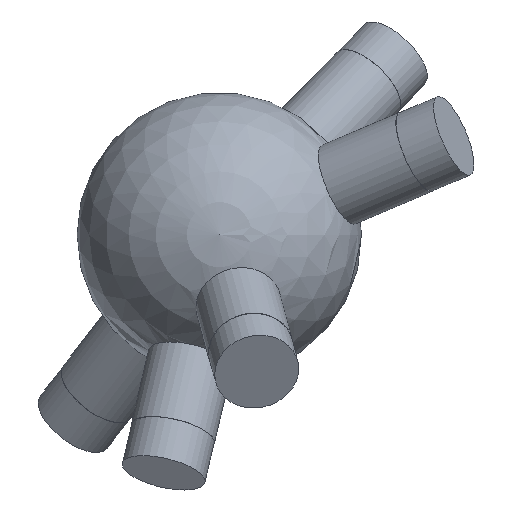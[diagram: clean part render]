
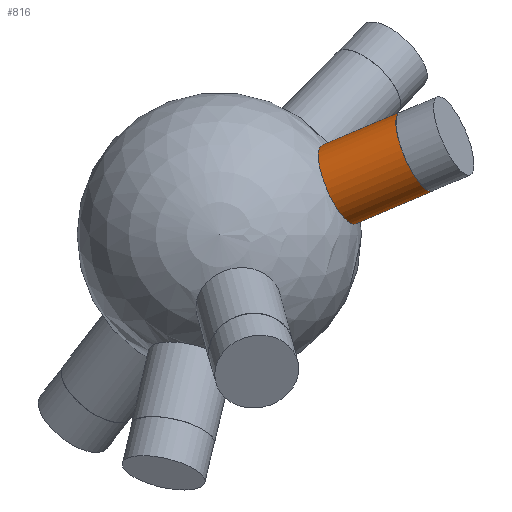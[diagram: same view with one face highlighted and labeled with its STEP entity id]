
A CAD part, top view. The second image highlights one B-rep face of the part: STEP entity #816.
In plain terms, the highlighted cylindrical face has radius 6 mm (diameter 12 mm), a full revolution.
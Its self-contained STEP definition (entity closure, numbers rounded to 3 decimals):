
#33 = SPHERICAL_SURFACE('',#34,20.);
#34 = AXIS2_PLACEMENT_3D('',#35,#36,#37);
#35 = CARTESIAN_POINT('',(0.,0.,0.));
#36 = DIRECTION('',(0.,0.,1.));
#37 = DIRECTION('',(1.,0.,-0.));
#367 = EDGE_CURVE('',#368,#368,#370,.T.);
#368 = VERTEX_POINT('',#369);
#369 = CARTESIAN_POINT('',(14.427,12.604,
    5.746));
#370 = SURFACE_CURVE('',#371,(#376,#431),.PCURVE_S1.);
#371 = CIRCLE('',#372,6.);
#372 = AXIS2_PLACEMENT_3D('',#373,#374,#375);
#373 = CARTESIAN_POINT('',(16.76,7.076,5.746
    ));
#374 = DIRECTION('',(0.878,0.371,0.301));
#375 = DIRECTION('',(-0.389,0.921,0.)
  );
#376 = PCURVE('',#33,#377);
#377 = DEFINITIONAL_REPRESENTATION('',(#378),#430);
#378 = B_SPLINE_CURVE_WITH_KNOTS('',8,(#379,#380,#381,#382,#383,#384,
    #385,#386,#387,#388,#389,#390,#391,#392,#393,#394,#395,#396,#397,
    #398,#399,#400,#401,#402,#403,#404,#405,#406,#407,#408,#409,#410,
    #411,#412,#413,#414,#415,#416,#417,#418,#419,#420,#421,#422,#423,
    #424,#425,#426,#427,#428,#429),.UNSPECIFIED.,.F.,.F.,(9,7,7,7,7,7,7,
    9),(0.,0.785,1.473,2.074,3.126,
    3.915,5.099,6.283),.UNSPECIFIED.);
#379 = CARTESIAN_POINT('',(0.718,0.291));
#380 = CARTESIAN_POINT('',(0.721,0.321));
#381 = CARTESIAN_POINT('',(0.721,0.35));
#382 = CARTESIAN_POINT('',(0.717,0.38));
#383 = CARTESIAN_POINT('',(0.71,0.409));
#384 = CARTESIAN_POINT('',(0.699,0.437));
#385 = CARTESIAN_POINT('',(0.685,0.464));
#386 = CARTESIAN_POINT('',(0.667,0.489));
#387 = CARTESIAN_POINT('',(0.626,0.532));
#388 = CARTESIAN_POINT('',(0.605,0.55));
#389 = CARTESIAN_POINT('',(0.581,0.566));
#390 = CARTESIAN_POINT('',(0.555,0.58));
#391 = CARTESIAN_POINT('',(0.527,0.591));
#392 = CARTESIAN_POINT('',(0.497,0.6));
#393 = CARTESIAN_POINT('',(0.467,0.606));
#394 = CARTESIAN_POINT('',(0.408,0.612));
#395 = CARTESIAN_POINT('',(0.38,0.612));
#396 = CARTESIAN_POINT('',(0.353,0.61));
#397 = CARTESIAN_POINT('',(0.325,0.606));
#398 = CARTESIAN_POINT('',(0.299,0.599));
#399 = CARTESIAN_POINT('',(0.273,0.591));
#400 = CARTESIAN_POINT('',(0.249,0.58));
#401 = CARTESIAN_POINT('',(0.188,0.546));
#402 = CARTESIAN_POINT('',(0.153,0.519));
#403 = CARTESIAN_POINT('',(0.125,0.488));
#404 = CARTESIAN_POINT('',(0.103,0.452));
#405 = CARTESIAN_POINT('',(0.088,0.414));
#406 = CARTESIAN_POINT('',(0.08,0.375));
#407 = CARTESIAN_POINT('',(0.077,0.335));
#408 = CARTESIAN_POINT('',(0.083,0.266));
#409 = CARTESIAN_POINT('',(0.089,0.237));
#410 = CARTESIAN_POINT('',(0.098,0.209));
#411 = CARTESIAN_POINT('',(0.109,0.181));
#412 = CARTESIAN_POINT('',(0.124,0.155));
#413 = CARTESIAN_POINT('',(0.141,0.13));
#414 = CARTESIAN_POINT('',(0.161,0.108));
#415 = CARTESIAN_POINT('',(0.215,0.057));
#416 = CARTESIAN_POINT('',(0.252,0.032));
#417 = CARTESIAN_POINT('',(0.293,0.013));
#418 = CARTESIAN_POINT('',(0.337,0.));
#419 = CARTESIAN_POINT('',(0.382,-0.005));
#420 = CARTESIAN_POINT('',(0.428,-0.003));
#421 = CARTESIAN_POINT('',(0.472,0.006));
#422 = CARTESIAN_POINT('',(0.554,0.038));
#423 = CARTESIAN_POINT('',(0.593,0.061));
#424 = CARTESIAN_POINT('',(0.628,0.09));
#425 = CARTESIAN_POINT('',(0.659,0.124));
#426 = CARTESIAN_POINT('',(0.683,0.162));
#427 = CARTESIAN_POINT('',(0.702,0.204));
#428 = CARTESIAN_POINT('',(0.714,0.247));
#429 = CARTESIAN_POINT('',(0.718,0.291));
#430 = ( GEOMETRIC_REPRESENTATION_CONTEXT(2) 
PARAMETRIC_REPRESENTATION_CONTEXT() REPRESENTATION_CONTEXT('2D SPACE',''
  ) );
#431 = PCURVE('',#432,#437);
#432 = CYLINDRICAL_SURFACE('',#433,6.);
#433 = AXIS2_PLACEMENT_3D('',#434,#435,#436);
#434 = CARTESIAN_POINT('',(0.,0.,0.));
#435 = DIRECTION('',(0.878,0.371,0.301));
#436 = DIRECTION('',(-0.389,0.921,0.)
  );
#437 = DEFINITIONAL_REPRESENTATION('',(#438),#442);
#438 = LINE('',#439,#440);
#439 = CARTESIAN_POINT('',(0.,19.079));
#440 = VECTOR('',#441,1.);
#441 = DIRECTION('',(1.,0.));
#442 = ( GEOMETRIC_REPRESENTATION_CONTEXT(2) 
PARAMETRIC_REPRESENTATION_CONTEXT() REPRESENTATION_CONTEXT('2D SPACE',''
  ) );
#816 = ADVANCED_FACE('',(#817),#432,.T.);
#817 = FACE_BOUND('',#818,.T.);
#818 = EDGE_LOOP('',(#819,#842,#869,#870));
#819 = ORIENTED_EDGE('',*,*,#820,.T.);
#820 = EDGE_CURVE('',#368,#821,#823,.T.);
#821 = VERTEX_POINT('',#822);
#822 = CARTESIAN_POINT('',(25.299,17.194,9.474
    ));
#823 = SEAM_CURVE('',#824,(#828,#835),.PCURVE_S1.);
#824 = LINE('',#825,#826);
#825 = CARTESIAN_POINT('',(-2.334,5.528,
    0.));
#826 = VECTOR('',#827,1.);
#827 = DIRECTION('',(0.878,0.371,0.301));
#828 = PCURVE('',#432,#829);
#829 = DEFINITIONAL_REPRESENTATION('',(#830),#834);
#830 = LINE('',#831,#832);
#831 = CARTESIAN_POINT('',(6.283,-0.));
#832 = VECTOR('',#833,1.);
#833 = DIRECTION('',(0.,1.));
#834 = ( GEOMETRIC_REPRESENTATION_CONTEXT(2) 
PARAMETRIC_REPRESENTATION_CONTEXT() REPRESENTATION_CONTEXT('2D SPACE',''
  ) );
#835 = PCURVE('',#432,#836);
#836 = DEFINITIONAL_REPRESENTATION('',(#837),#841);
#837 = LINE('',#838,#839);
#838 = CARTESIAN_POINT('',(0.,-0.));
#839 = VECTOR('',#840,1.);
#840 = DIRECTION('',(0.,1.));
#841 = ( GEOMETRIC_REPRESENTATION_CONTEXT(2) 
PARAMETRIC_REPRESENTATION_CONTEXT() REPRESENTATION_CONTEXT('2D SPACE',''
  ) );
#842 = ORIENTED_EDGE('',*,*,#843,.F.);
#843 = EDGE_CURVE('',#821,#821,#844,.T.);
#844 = SURFACE_CURVE('',#845,(#850,#857),.PCURVE_S1.);
#845 = CIRCLE('',#846,6.);
#846 = AXIS2_PLACEMENT_3D('',#847,#848,#849);
#847 = CARTESIAN_POINT('',(27.633,11.666,9.474
    ));
#848 = DIRECTION('',(0.878,0.371,0.301));
#849 = DIRECTION('',(-0.389,0.921,0.)
  );
#850 = PCURVE('',#432,#851);
#851 = DEFINITIONAL_REPRESENTATION('',(#852),#856);
#852 = LINE('',#853,#854);
#853 = CARTESIAN_POINT('',(0.,31.455));
#854 = VECTOR('',#855,1.);
#855 = DIRECTION('',(1.,0.));
#856 = ( GEOMETRIC_REPRESENTATION_CONTEXT(2) 
PARAMETRIC_REPRESENTATION_CONTEXT() REPRESENTATION_CONTEXT('2D SPACE',''
  ) );
#857 = PCURVE('',#858,#863);
#858 = PLANE('',#859);
#859 = AXIS2_PLACEMENT_3D('',#860,#861,#862);
#860 = CARTESIAN_POINT('',(27.633,11.666,9.474
    ));
#861 = DIRECTION('',(0.878,0.371,0.301));
#862 = DIRECTION('',(-0.389,0.921,0.)
  );
#863 = DEFINITIONAL_REPRESENTATION('',(#864),#868);
#864 = CIRCLE('',#865,6.);
#865 = AXIS2_PLACEMENT_2D('',#866,#867);
#866 = CARTESIAN_POINT('',(0.,0.));
#867 = DIRECTION('',(1.,0.));
#868 = ( GEOMETRIC_REPRESENTATION_CONTEXT(2) 
PARAMETRIC_REPRESENTATION_CONTEXT() REPRESENTATION_CONTEXT('2D SPACE',''
  ) );
#869 = ORIENTED_EDGE('',*,*,#820,.F.);
#870 = ORIENTED_EDGE('',*,*,#367,.T.);
